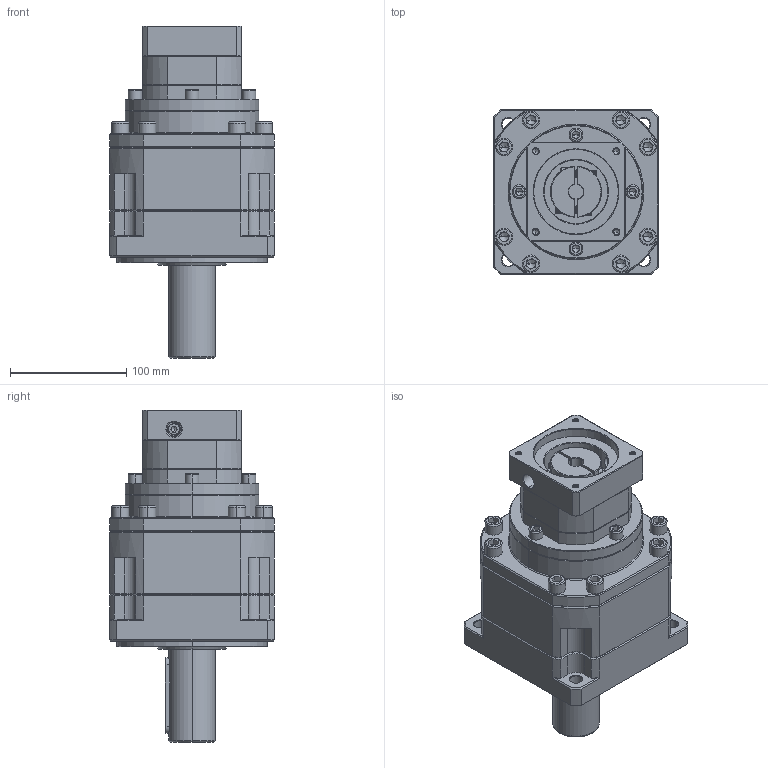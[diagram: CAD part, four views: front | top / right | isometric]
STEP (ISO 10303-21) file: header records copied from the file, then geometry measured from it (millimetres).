
FILE_DESCRIPTION (( 'STEP AP214' ), '1' );
FILE_NAME ('ZB142A-D40-L3-12.7-73-69.6X69.6-M6.step', '2023-03-18T08:14:59', ( '' ), ( '' ), 'SwSTEP 2.0', 'SolidWorks 2016', '' );
FILE_SCHEMA (( 'AUTOMOTIVE_DESIGN' ));
Length unit declared in the file: millimetre
Products named in the file (1): ZB142A-D40-L3-12.7-73-69.6X69.6-M6
Bounding box: 142 x 142 x 286.2 mm (x, y, z)
Volume: 2774054.5 mm3; surface area: 200565.6 mm2
Topology: 5 solids, 6 shells, 2261 faces, 5788 edges, 3643 vertices
Faces by surface type: plane 1052, cylinder 473, cone 376, bspline 299, torus 61
Entity records: 118217 total; most frequent: CARTESIAN_POINT 41257, ORIENTED_EDGE 11468, DIRECTION 9712, EDGE_CURVE 5734, VERTEX_POINT 3643, VECTOR 3586, LINE 3586, AXIS2_PLACEMENT_3D 3063
